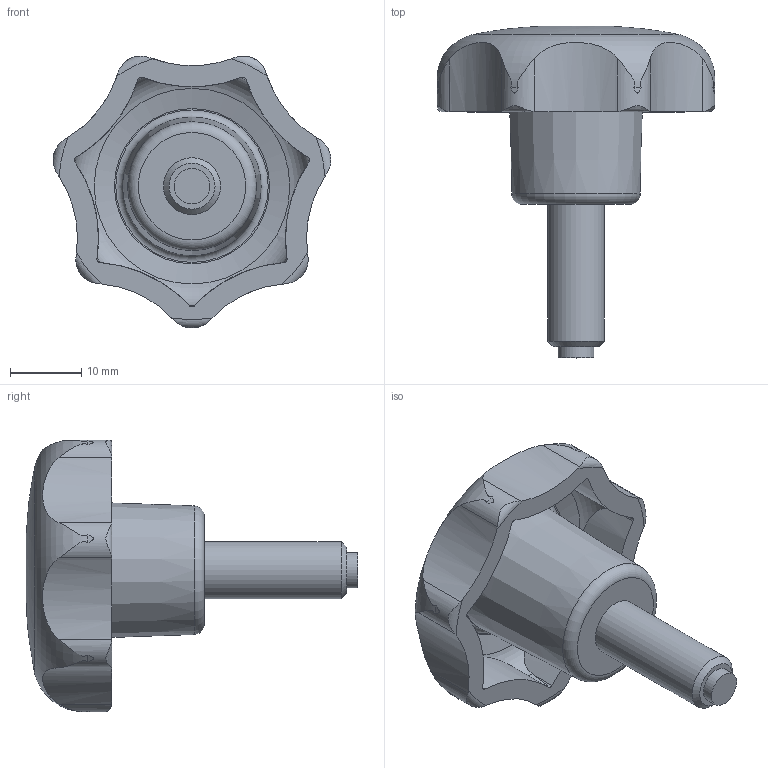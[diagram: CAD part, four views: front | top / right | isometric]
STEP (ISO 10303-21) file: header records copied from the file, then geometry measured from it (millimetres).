
FILE_DESCRIPTION( ( 'STEP AP203' ), '1' );
FILE_NAME( 'C:/Temp/Ganter_Step_05_03_2020/data/2_2/gn6336_10/Star knob GN 6336.10-40-M8-20-KU.stp', '2020-03-05T12:04:23', ( 'License CC BY-ND 4.0' ), ( 'CADENAS' ), ' ', 'PARTsolutions', ' ' );
FILE_SCHEMA( ( 'CONFIG_CONTROL_DESIGN' ) );
Length unit declared in the file: millimetre
Products named in the file (1): _Star knob GN 6336.10-40-M8-20-KU
Bounding box: 39.03 x 46.67 x 38.23 mm (x, y, z)
Volume: 12539.4 mm3; surface area: 5642.7 mm2
Topology: 1 solids, 1 shells, 64 faces, 188 edges, 128 vertices
Faces by surface type: cylinder 30, cone 17, torus 12, plane 4, bspline 1
Full cylindrical faces by diameter (mm): 5 x1, 8 x1
Entity records: 3177 total; most frequent: CARTESIAN_POINT 1616, ORIENTED_EDGE 346, DIRECTION 264, EDGE_CURVE 173, VERTEX_POINT 126, AXIS2_PLACEMENT_3D 118, B_SPLINE_CURVE_WITH_KNOTS 91, EDGE_LOOP 77
